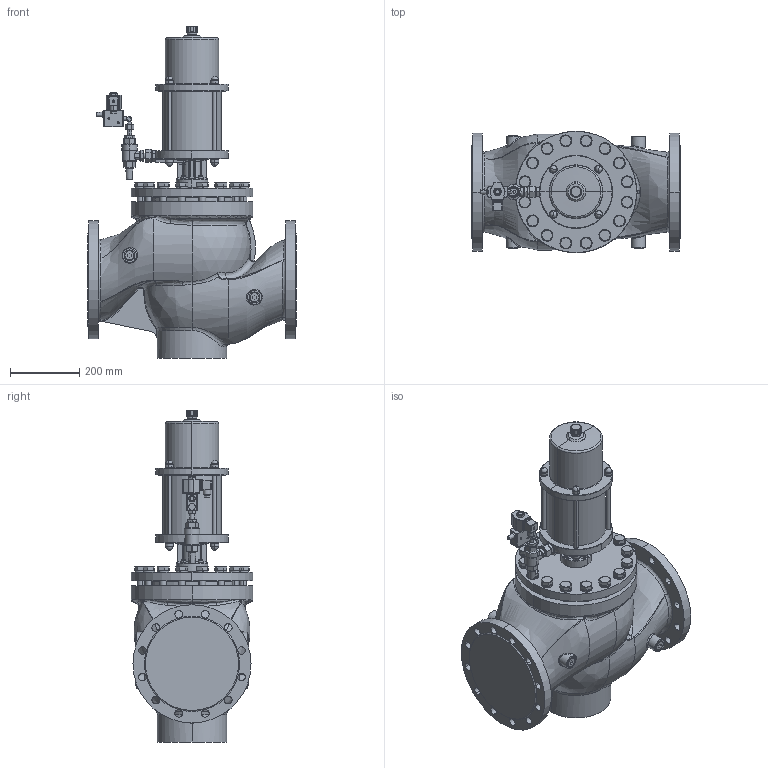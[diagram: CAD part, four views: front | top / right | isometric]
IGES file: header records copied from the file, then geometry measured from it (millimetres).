
Global section: file name: No Iges File Name specified; native system: AutoDesk Inventor R12.0; preprocessor: AutoDesk Inventor Iges Exporter R12.0; date: 20100420.075853; units: millimetre
Bounding box: 600 x 350 x 955.55 mm (x, y, z)
Volume: 60349483.7 mm3; surface area: 1737856.7 mm2
Topology: 1 solids, 1 shells, 1836 faces, 4748 edges, 2946 vertices
Faces by surface type: plane 689, cylinder 360, bspline 352, cone 223, revolution 135, torus 42, sphere 35
